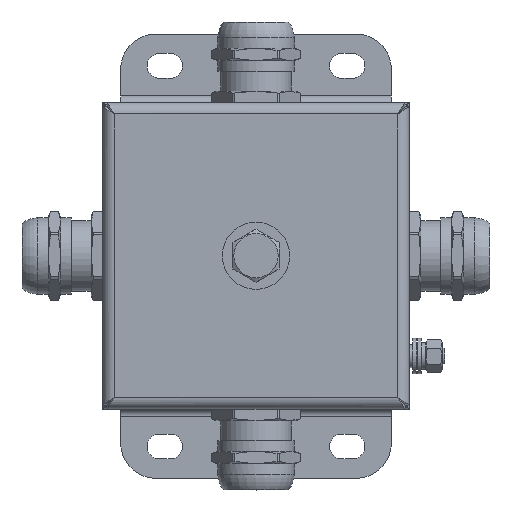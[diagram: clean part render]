
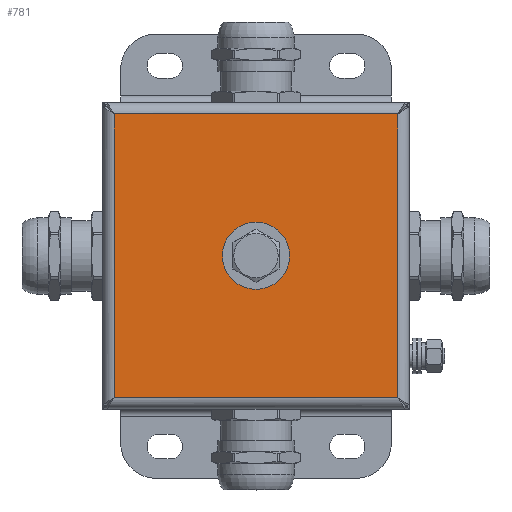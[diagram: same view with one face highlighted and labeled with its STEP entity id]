
A CAD part, top view. The second image highlights one B-rep face of the part: STEP entity #781.
In plain terms, the highlighted planar face has unit normal (0, 0, 1).
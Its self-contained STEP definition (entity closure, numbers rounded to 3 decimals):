
#781=ADVANCED_FACE('',(#5960,#5962),#5964,.T.);
#5960=FACE_BOUND('',#5961,.T.);
#5961=EDGE_LOOP('',(#9026,#9027,#9028,#9029));
#5962=FACE_BOUND('',#5963,.T.);
#5963=EDGE_LOOP('',(#9030));
#5964=PLANE('',#5965);
#5965=AXIS2_PLACEMENT_3D('',#5966,#5967,#5968);
#5966=CARTESIAN_POINT('',(0.,0.,61.7));
#5967=DIRECTION('',(0.,-0.,1.));
#5968=DIRECTION('',(0.,1.,0.));
#9026=ORIENTED_EDGE('',*,*,#11039,.T.);
#9027=ORIENTED_EDGE('',*,*,#11040,.T.);
#9028=ORIENTED_EDGE('',*,*,#11041,.T.);
#9029=ORIENTED_EDGE('',*,*,#11042,.T.);
#9030=ORIENTED_EDGE('',*,*,#10350,.T.);
#10350=EDGE_CURVE('',#13730,#13730,#13731,.F.);
#11039=EDGE_CURVE('',#14096,#14097,#14098,.T.);
#11040=EDGE_CURVE('',#14097,#14099,#14100,.T.);
#11041=EDGE_CURVE('',#14099,#14101,#14102,.T.);
#11042=EDGE_CURVE('',#14101,#14096,#14103,.T.);
#13730=VERTEX_POINT('',#15095);
#13731=CIRCLE('',#15096,8.5);
#14096=VERTEX_POINT('',#15939);
#14097=VERTEX_POINT('',#15940);
#14098=LINE('',#15941,#15942);
#14099=VERTEX_POINT('',#15944);
#14100=LINE('',#15945,#15946);
#14101=VERTEX_POINT('',#15948);
#14102=LINE('',#15949,#15950);
#14103=LINE('',#15952,#15953);
#15095=CARTESIAN_POINT('',(-8.5,0.,61.7));
#15096=AXIS2_PLACEMENT_3D('',#15097,#15098,#15099);
#15097=CARTESIAN_POINT('',(0.,0.,61.7));
#15098=DIRECTION('',(0.,-0.,1.));
#15099=DIRECTION('',(-1.,0.,0.));
#15939=CARTESIAN_POINT('',(40.05,40.05,61.7));
#15940=CARTESIAN_POINT('',(-40.05,40.05,61.7));
#15941=CARTESIAN_POINT('',(40.05,40.05,61.7));
#15942=VECTOR('',#15943,1.);
#15943=DIRECTION('',(-1.,0.,0.));
#15944=CARTESIAN_POINT('',(-40.05,-40.05,61.7));
#15945=CARTESIAN_POINT('',(-40.05,40.05,61.7));
#15946=VECTOR('',#15947,1.);
#15947=DIRECTION('',(0.,-1.,0.));
#15948=CARTESIAN_POINT('',(40.05,-40.05,61.7));
#15949=CARTESIAN_POINT('',(-40.05,-40.05,61.7));
#15950=VECTOR('',#15951,1.);
#15951=DIRECTION('',(1.,0.,0.));
#15952=CARTESIAN_POINT('',(40.05,-40.05,61.7));
#15953=VECTOR('',#15954,1.);
#15954=DIRECTION('',(0.,1.,0.));
